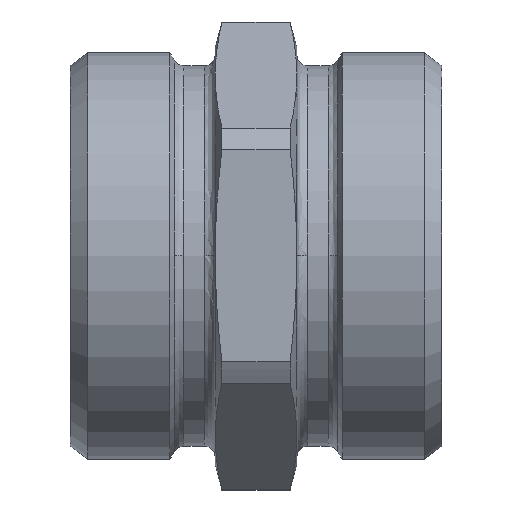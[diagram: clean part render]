
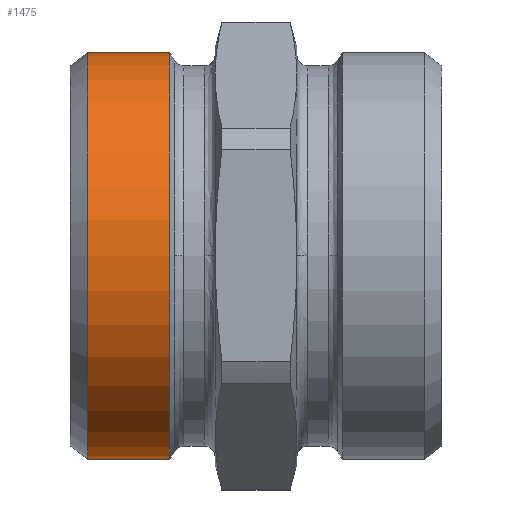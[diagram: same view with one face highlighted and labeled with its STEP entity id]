
A CAD part, top view. The second image highlights one B-rep face of the part: STEP entity #1475.
In plain terms, the highlighted cylindrical face has radius 22.41 mm (diameter 44.82 mm), a partial arc.
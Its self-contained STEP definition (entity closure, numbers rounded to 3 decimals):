
#859=CARTESIAN_POINT('',(0.,-22.41,18.563));
#860=VERTEX_POINT('',#859);
#861=CARTESIAN_POINT('',(0.,-22.41,9.493));
#862=VERTEX_POINT('',#861);
#863=CARTESIAN_POINT('',(0.,-22.41,18.563));
#864=DIRECTION('',(0.0,0.0,-1.0));
#865=VECTOR('',#864,9.07);
#866=LINE('',#863,#865);
#867=EDGE_CURVE('',#860,#862,#866,.T.);
#869=CARTESIAN_POINT('',(0.,22.41,18.563));
#870=VERTEX_POINT('',#869);
#878=CARTESIAN_POINT('',(0.,22.41,9.493));
#879=VERTEX_POINT('',#878);
#880=CARTESIAN_POINT('',(0.,22.41,9.493));
#881=DIRECTION('',(0.0,0.0,1.0));
#882=VECTOR('',#881,9.07);
#883=LINE('',#880,#882);
#884=EDGE_CURVE('',#879,#870,#883,.T.);
#1351=CARTESIAN_POINT('',(0.,0.0,9.493));
#1352=DIRECTION('',(0.0,0.0,-1.0));
#1353=DIRECTION('',(0.0,-1.0,0.0));
#1354=AXIS2_PLACEMENT_3D('',#1351,#1352,#1353);
#1355=CIRCLE('',#1354,22.41);
#1356=EDGE_CURVE('',#879,#862,#1355,.T.);
#1452=CARTESIAN_POINT('',(0.,0.,18.563));
#1453=DIRECTION('',(0.0,0.0,-1.0));
#1454=DIRECTION('',(0.0,-1.0,0.0));
#1455=AXIS2_PLACEMENT_3D('',#1452,#1453,#1454);
#1456=CIRCLE('',#1455,22.41);
#1457=EDGE_CURVE('',#870,#860,#1456,.T.);
#1464=CARTESIAN_POINT('',(0.,0.0,14.028));
#1465=DIRECTION('',(0.,0.,-1.0));
#1466=DIRECTION('',(0.0,-1.0,0.0));
#1467=AXIS2_PLACEMENT_3D('',#1464,#1465,#1466);
#1468=CYLINDRICAL_SURFACE('',#1467,22.41);
#1469=ORIENTED_EDGE('',*,*,#867,.T.);
#1470=ORIENTED_EDGE('',*,*,#1356,.F.);
#1471=ORIENTED_EDGE('',*,*,#884,.T.);
#1472=ORIENTED_EDGE('',*,*,#1457,.T.);
#1473=EDGE_LOOP('',(#1469,#1470,#1471,#1472));
#1474=FACE_OUTER_BOUND('',#1473,.T.);
#1475=ADVANCED_FACE('',(#1474),#1468,.T.);
